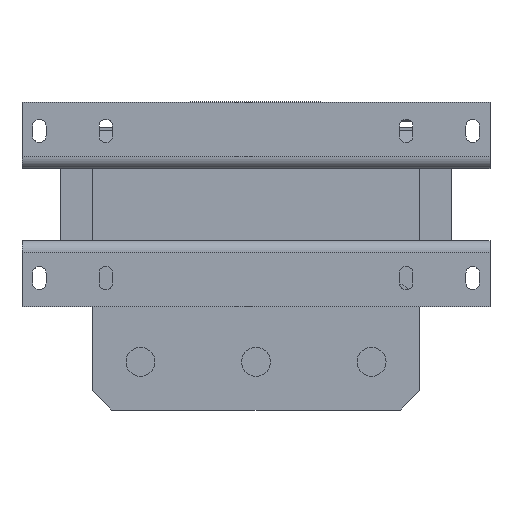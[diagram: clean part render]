
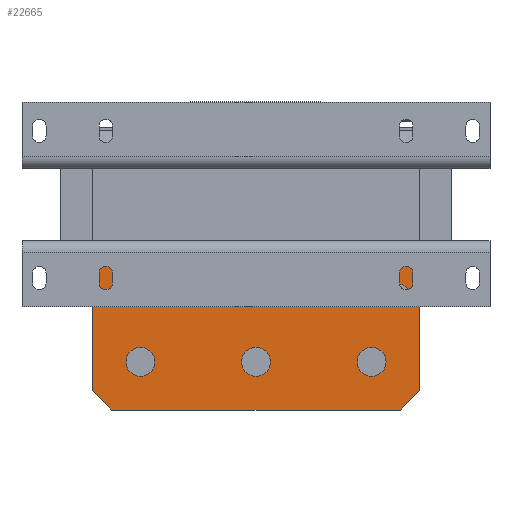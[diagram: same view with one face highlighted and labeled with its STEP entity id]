
A CAD part, front view. The second image highlights one B-rep face of the part: STEP entity #22665.
In plain terms, the highlighted planar face has unit normal (0, -1, 0).
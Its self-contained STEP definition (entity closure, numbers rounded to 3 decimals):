
#52 = ORIENTED_EDGE ( 'NONE', *, *, #1875, .F. ) ;
#244 = CARTESIAN_POINT ( 'NONE',  ( 75., 33., -106.7 ) ) ;
#329 = AXIS2_PLACEMENT_3D ( 'NONE', #16111, #2378, #19954 ) ;
#443 = ORIENTED_EDGE ( 'NONE', *, *, #25187, .T. ) ;
#604 = EDGE_CURVE ( 'NONE', #7777, #16874, #16946, .T. ) ;
#1010 = CARTESIAN_POINT ( 'NONE',  ( -85., 33., -25.7 ) ) ;
#1145 = DIRECTION ( 'NONE',  ( 0., 0., -1. ) ) ;
#1214 = CARTESIAN_POINT ( 'NONE',  ( -60., 33., -74.2 ) ) ;
#1504 = DIRECTION ( 'NONE',  ( 0., 1., 0. ) ) ;
#1580 = EDGE_CURVE ( 'NONE', #16874, #7777, #8856, .T. ) ;
#1621 = EDGE_CURVE ( 'NONE', #8888, #6650, #14136, .T. ) ;
#1627 = CARTESIAN_POINT ( 'NONE',  ( 75., 33., -46.7 ) ) ;
#1784 = CARTESIAN_POINT ( 'NONE',  ( 0., 33., -81.7 ) ) ;
#1849 = AXIS2_PLACEMENT_3D ( 'NONE', #1627, #1504, #7003 ) ;
#1875 = EDGE_CURVE ( 'NONE', #20668, #21310, #4968, .T. ) ;
#1888 = CARTESIAN_POINT ( 'NONE',  ( 0., 33., -74.2 ) ) ;
#1958 = CARTESIAN_POINT ( 'NONE',  ( 60., 33., -81.7 ) ) ;
#2284 = EDGE_CURVE ( 'NONE', #24784, #9783, #10914, .T. ) ;
#2288 = CARTESIAN_POINT ( 'NONE',  ( -60., 33., -89.2 ) ) ;
#2378 = DIRECTION ( 'NONE',  ( 0., 1., 0. ) ) ;
#2627 = AXIS2_PLACEMENT_3D ( 'NONE', #14985, #12810, #20607 ) ;
#2861 = CARTESIAN_POINT ( 'NONE',  ( 85., 33., -25.7 ) ) ;
#3476 = DIRECTION ( 'NONE',  ( 0., -1., 0. ) ) ;
#3577 = DIRECTION ( 'NONE',  ( 0., 0., 1. ) ) ;
#3694 = ORIENTED_EDGE ( 'NONE', *, *, #7899, .T. ) ;
#4063 = PLANE ( 'NONE',  #21920 ) ;
#4065 = EDGE_CURVE ( 'NONE', #8190, #17882, #5871, .T. ) ;
#4120 = CARTESIAN_POINT ( 'NONE',  ( 60., 33., -74.2 ) ) ;
#4652 = DIRECTION ( 'NONE',  ( 0.707, 0., -0.707 ) ) ;
#4899 = CARTESIAN_POINT ( 'NONE',  ( 79.33, 33., -44.2 ) ) ;
#4968 = LINE ( 'NONE', #18601, #12100 ) ;
#5068 = VECTOR ( 'NONE', #12687, 1000. ) ;
#5105 = ORIENTED_EDGE ( 'NONE', *, *, #15543, .T. ) ;
#5311 = CIRCLE ( 'NONE', #22386, 7.5 ) ;
#5597 = ORIENTED_EDGE ( 'NONE', *, *, #16422, .T. ) ;
#5651 = DIRECTION ( 'NONE',  ( 0., 0., 1. ) ) ;
#5871 = CIRCLE ( 'NONE', #2627, 7.5 ) ;
#6125 = LINE ( 'NONE', #244, #8410 ) ;
#6219 = VERTEX_POINT ( 'NONE', #11287 ) ;
#6351 = CIRCLE ( 'NONE', #14481, 7.5 ) ;
#6650 = VERTEX_POINT ( 'NONE', #9806 ) ;
#6677 = EDGE_LOOP ( 'NONE', ( #17439, #14025 ) ) ;
#6999 = EDGE_LOOP ( 'NONE', ( #5597, #52, #24633, #3694, #443, #15122 ) ) ;
#7003 = DIRECTION ( 'NONE',  ( 0., 0., 1. ) ) ;
#7314 = CARTESIAN_POINT ( 'NONE',  ( 0., 33., -81.7 ) ) ;
#7402 = CARTESIAN_POINT ( 'NONE',  ( 85., 33., -25.7 ) ) ;
#7653 = DIRECTION ( 'NONE',  ( -1., 0., 0. ) ) ;
#7777 = VERTEX_POINT ( 'NONE', #10827 ) ;
#7899 = EDGE_CURVE ( 'NONE', #21566, #6219, #25095, .T. ) ;
#8147 = FACE_OUTER_BOUND ( 'NONE', #6999, .T. ) ;
#8190 = VERTEX_POINT ( 'NONE', #1214 ) ;
#8356 = CARTESIAN_POINT ( 'NONE',  ( -60., 33., -81.7 ) ) ;
#8410 = VECTOR ( 'NONE', #15801, 1000. ) ;
#8856 = CIRCLE ( 'NONE', #25125, 7.5 ) ;
#8888 = VERTEX_POINT ( 'NONE', #4120 ) ;
#9215 = DIRECTION ( 'NONE',  ( 0., -1., 0. ) ) ;
#9242 = ORIENTED_EDGE ( 'NONE', *, *, #604, .F. ) ;
#9670 = FACE_BOUND ( 'NONE', #20510, .T. ) ;
#9783 = VERTEX_POINT ( 'NONE', #4899 ) ;
#9806 = CARTESIAN_POINT ( 'NONE',  ( 60., 33., -89.2 ) ) ;
#10047 = FACE_BOUND ( 'NONE', #16558, .T. ) ;
#10827 = CARTESIAN_POINT ( 'NONE',  ( 0., 33., -89.2 ) ) ;
#10914 = CIRCLE ( 'NONE', #329, 5. ) ;
#11287 = CARTESIAN_POINT ( 'NONE',  ( -85., 33., -96.7 ) ) ;
#11569 = ORIENTED_EDGE ( 'NONE', *, *, #1580, .F. ) ;
#12100 = VECTOR ( 'NONE', #1145, 1000. ) ;
#12316 = CARTESIAN_POINT ( 'NONE',  ( 75., 33., -106.7 ) ) ;
#12385 = ORIENTED_EDGE ( 'NONE', *, *, #12953, .F. ) ;
#12447 = AXIS2_PLACEMENT_3D ( 'NONE', #1784, #12859, #3577 ) ;
#12687 = DIRECTION ( 'NONE',  ( -1., 0., 0. ) ) ;
#12810 = DIRECTION ( 'NONE',  ( 0., -1., 0. ) ) ;
#12859 = DIRECTION ( 'NONE',  ( 0., -1., 0. ) ) ;
#12953 = EDGE_CURVE ( 'NONE', #17882, #8190, #5311, .T. ) ;
#13311 = DIRECTION ( 'NONE',  ( 0., 0., 1. ) ) ;
#13502 = CARTESIAN_POINT ( 'NONE',  ( 85., 33., -96.7 ) ) ;
#13729 = DIRECTION ( 'NONE',  ( 0., 1., 0. ) ) ;
#14025 = ORIENTED_EDGE ( 'NONE', *, *, #15993, .F. ) ;
#14028 = CARTESIAN_POINT ( 'NONE',  ( 60., 33., -81.7 ) ) ;
#14075 = VECTOR ( 'NONE', #7653, 1000. ) ;
#14136 = CIRCLE ( 'NONE', #18621, 7.5 ) ;
#14481 = AXIS2_PLACEMENT_3D ( 'NONE', #14028, #25038, #13311 ) ;
#14985 = CARTESIAN_POINT ( 'NONE',  ( -60., 33., -81.7 ) ) ;
#15122 = ORIENTED_EDGE ( 'NONE', *, *, #17154, .F. ) ;
#15397 = FACE_BOUND ( 'NONE', #22659, .T. ) ;
#15543 = EDGE_CURVE ( 'NONE', #9783, #24784, #24629, .T. ) ;
#15801 = DIRECTION ( 'NONE',  ( 0.707, 0., 0.707 ) ) ;
#15823 = VECTOR ( 'NONE', #16935, 1000. ) ;
#15993 = EDGE_CURVE ( 'NONE', #6650, #8888, #6351, .T. ) ;
#16111 = CARTESIAN_POINT ( 'NONE',  ( 75., 33., -46.7 ) ) ;
#16422 = EDGE_CURVE ( 'NONE', #22813, #21310, #6125, .T. ) ;
#16496 = CARTESIAN_POINT ( 'NONE',  ( -85., 33., -96.7 ) ) ;
#16558 = EDGE_LOOP ( 'NONE', ( #11569, #9242 ) ) ;
#16874 = VERTEX_POINT ( 'NONE', #1888 ) ;
#16935 = DIRECTION ( 'NONE',  ( 0., 0., -1. ) ) ;
#16946 = CIRCLE ( 'NONE', #12447, 7.5 ) ;
#17154 = EDGE_CURVE ( 'NONE', #22813, #21412, #22875, .T. ) ;
#17439 = ORIENTED_EDGE ( 'NONE', *, *, #1621, .F. ) ;
#17660 = DIRECTION ( 'NONE',  ( 0., -1., 0. ) ) ;
#17688 = DIRECTION ( 'NONE',  ( 0., 0., 1. ) ) ;
#17690 = EDGE_CURVE ( 'NONE', #20668, #21566, #19236, .T. ) ;
#17711 = CARTESIAN_POINT ( 'NONE',  ( -75., 33., -106.7 ) ) ;
#17882 = VERTEX_POINT ( 'NONE', #2288 ) ;
#17918 = DIRECTION ( 'NONE',  ( 0., 0., 1. ) ) ;
#18304 = LINE ( 'NONE', #16496, #20653 ) ;
#18343 = CARTESIAN_POINT ( 'NONE',  ( 70.67, 33., -49.2 ) ) ;
#18601 = CARTESIAN_POINT ( 'NONE',  ( 85., 33., -21.7 ) ) ;
#18621 = AXIS2_PLACEMENT_3D ( 'NONE', #1958, #3476, #5651 ) ;
#18694 = CARTESIAN_POINT ( 'NONE',  ( 85., 33., -106.7 ) ) ;
#19028 = DIRECTION ( 'NONE',  ( 0., 0., 1. ) ) ;
#19236 = LINE ( 'NONE', #7402, #14075 ) ;
#19608 = CARTESIAN_POINT ( 'NONE',  ( 85., 33., -21.7 ) ) ;
#19954 = DIRECTION ( 'NONE',  ( 0., 0., 1. ) ) ;
#20368 = ORIENTED_EDGE ( 'NONE', *, *, #2284, .T. ) ;
#20510 = EDGE_LOOP ( 'NONE', ( #20540, #12385 ) ) ;
#20540 = ORIENTED_EDGE ( 'NONE', *, *, #4065, .F. ) ;
#20607 = DIRECTION ( 'NONE',  ( 0., 0., 1. ) ) ;
#20653 = VECTOR ( 'NONE', #4652, 1000. ) ;
#20668 = VERTEX_POINT ( 'NONE', #2861 ) ;
#21310 = VERTEX_POINT ( 'NONE', #13502 ) ;
#21412 = VERTEX_POINT ( 'NONE', #17711 ) ;
#21566 = VERTEX_POINT ( 'NONE', #1010 ) ;
#21920 = AXIS2_PLACEMENT_3D ( 'NONE', #19608, #13729, #17688 ) ;
#22386 = AXIS2_PLACEMENT_3D ( 'NONE', #8356, #17660, #17918 ) ;
#22659 = EDGE_LOOP ( 'NONE', ( #5105, #20368 ) ) ;
#22665 = ADVANCED_FACE ( 'NONE', ( #15397, #9670, #10047, #23673, #8147 ), #4063, .F. ) ;
#22813 = VERTEX_POINT ( 'NONE', #12316 ) ;
#22875 = LINE ( 'NONE', #18694, #5068 ) ;
#22918 = CARTESIAN_POINT ( 'NONE',  ( -85., 33., -21.7 ) ) ;
#23673 = FACE_BOUND ( 'NONE', #6677, .T. ) ;
#24629 = CIRCLE ( 'NONE', #1849, 5. ) ;
#24633 = ORIENTED_EDGE ( 'NONE', *, *, #17690, .T. ) ;
#24784 = VERTEX_POINT ( 'NONE', #18343 ) ;
#25038 = DIRECTION ( 'NONE',  ( 0., -1., 0. ) ) ;
#25095 = LINE ( 'NONE', #22918, #15823 ) ;
#25125 = AXIS2_PLACEMENT_3D ( 'NONE', #7314, #9215, #19028 ) ;
#25187 = EDGE_CURVE ( 'NONE', #6219, #21412, #18304, .T. ) ;
